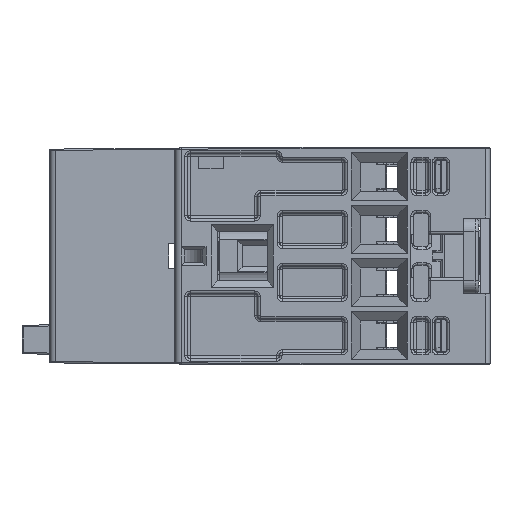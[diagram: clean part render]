
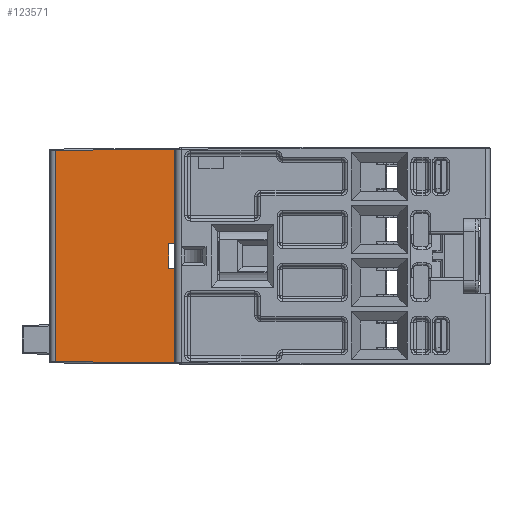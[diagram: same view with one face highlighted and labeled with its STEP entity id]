
A CAD part, left-side view. The second image highlights one B-rep face of the part: STEP entity #123571.
In plain terms, the highlighted planar face has unit normal (-1, 0.009, 0).
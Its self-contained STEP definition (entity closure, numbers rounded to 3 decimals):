
#74515 = CARTESIAN_POINT ( 'NONE',  ( -22.283, 62.909, 16.969 ) ) ;
#74572 = CARTESIAN_POINT ( 'NONE',  ( -22.45, 43.8, -2. ) ) ;
#74582 = CARTESIAN_POINT ( 'NONE',  ( -22.441, 44.8, 2. ) ) ;
#74583 = DIRECTION ( 'NONE',  ( 0.009, 1., 0. ) ) ;
#74584 = VECTOR ( 'NONE', #74583, 1000. ) ;
#74585 = CARTESIAN_POINT ( 'NONE',  ( -22.45, 43.8, 2. ) ) ;
#74586 = LINE ( 'NONE', #74585, #74584 ) ;
#74587 = CARTESIAN_POINT ( 'NONE',  ( -22.45, 43.8, 2. ) ) ;
#74659 = CARTESIAN_POINT ( 'NONE',  ( -22.283, 62.909, -16.969 ) ) ;
#74660 = DIRECTION ( 'NONE',  ( 0., 0., -1. ) ) ;
#74661 = VECTOR ( 'NONE', #74660, 1000. ) ;
#74662 = CARTESIAN_POINT ( 'NONE',  ( -22.283, 62.909, 16.969 ) ) ;
#74663 = LINE ( 'NONE', #74662, #74661 ) ;
#74682 = DIRECTION ( 'NONE',  ( 0., 0., 1. ) ) ;
#74683 = VECTOR ( 'NONE', #74682, 1000. ) ;
#74684 = CARTESIAN_POINT ( 'NONE',  ( -22.45, 43.8, -17.136 ) ) ;
#74685 = LINE ( 'NONE', #74684, #74683 ) ;
#74687 = CARTESIAN_POINT ( 'NONE',  ( -22.45, 43.8, 17.136 ) ) ;
#74688 = DIRECTION ( 'NONE',  ( -0.009, -1., 0.009 ) ) ;
#74689 = VECTOR ( 'NONE', #74688, 1000. ) ;
#74690 = CARTESIAN_POINT ( 'NONE',  ( -22.283, 62.909, 16.969 ) ) ;
#74691 = LINE ( 'NONE', #74690, #74689 ) ;
#74703 = FACE_OUTER_BOUND ( 'NONE', #123573, .T. ) ;
#74710 = DIRECTION ( 'NONE',  ( 0., 0., -1. ) ) ;
#74711 = VECTOR ( 'NONE', #74710, 1000. ) ;
#74712 = CARTESIAN_POINT ( 'NONE',  ( -22.441, 44.8, 2. ) ) ;
#74713 = LINE ( 'NONE', #74712, #74711 ) ;
#74731 = DIRECTION ( 'NONE',  ( 0., 0., 1. ) ) ;
#74732 = VECTOR ( 'NONE', #74731, 1000. ) ;
#74733 = CARTESIAN_POINT ( 'NONE',  ( -22.45, 43.8, 2. ) ) ;
#74734 = LINE ( 'NONE', #74733, #74732 ) ;
#74735 = DIRECTION ( 'NONE',  ( 0., 0., 1. ) ) ;
#74736 = DIRECTION ( 'NONE',  ( -1., 0.009, 0. ) ) ;
#74737 = CARTESIAN_POINT ( 'NONE',  ( -22.45, 43.8, -18.619 ) ) ;
#74738 = AXIS2_PLACEMENT_3D ( 'NONE', #74737, #74736, #74735 ) ;
#74739 = PLANE ( 'NONE',  #74738 ) ;
#74774 = DIRECTION ( 'NONE',  ( 0.009, 1., 0. ) ) ;
#74775 = VECTOR ( 'NONE', #74774, 1000. ) ;
#74776 = CARTESIAN_POINT ( 'NONE',  ( -22.45, 43.8, -2. ) ) ;
#74777 = LINE ( 'NONE', #74776, #74775 ) ;
#74778 = CARTESIAN_POINT ( 'NONE',  ( -22.441, 44.8, -2. ) ) ;
#74884 = CARTESIAN_POINT ( 'NONE',  ( -22.45, 43.8, -17.136 ) ) ;
#74885 = DIRECTION ( 'NONE',  ( -0.009, -1., -0.009 ) ) ;
#74886 = VECTOR ( 'NONE', #74885, 1000. ) ;
#74887 = CARTESIAN_POINT ( 'NONE',  ( -22.283, 62.909, -16.969 ) ) ;
#74888 = LINE ( 'NONE', #74887, #74886 ) ;
#123401 = VERTEX_POINT ( 'NONE', #74515 ) ;
#123444 = VERTEX_POINT ( 'NONE', #74572 ) ;
#123477 = VERTEX_POINT ( 'NONE', #74587 ) ;
#123482 = EDGE_CURVE ( 'NONE', #123477, #123484, #74586, .T. ) ;
#123484 = VERTEX_POINT ( 'NONE', #74582 ) ;
#123512 = EDGE_CURVE ( 'NONE', #123401, #123513, #74663, .T. ) ;
#123513 = VERTEX_POINT ( 'NONE', #74659 ) ;
#123537 = EDGE_CURVE ( 'NONE', #123401, #123540, #74691, .T. ) ;
#123540 = VERTEX_POINT ( 'NONE', #74687 ) ;
#123542 = EDGE_CURVE ( 'NONE', #123728, #123444, #74685, .T. ) ;
#123544 = ORIENTED_EDGE ( 'NONE', *, *, #123603, .T. ) ;
#123546 = ORIENTED_EDGE ( 'NONE', *, *, #123565, .F. ) ;
#123565 = EDGE_CURVE ( 'NONE', #123484, #123599, #74713, .T. ) ;
#123571 = ADVANCED_FACE ( 'NONE', ( #74703 ), #74739, .T. ) ;
#123573 = EDGE_LOOP ( 'NONE', ( #123576, #123579, #123584, #123587, #123726, #123730, #123544, #123546 ) ) ;
#123576 = ORIENTED_EDGE ( 'NONE', *, *, #123482, .F. ) ;
#123579 = ORIENTED_EDGE ( 'NONE', *, *, #123581, .T. ) ;
#123581 = EDGE_CURVE ( 'NONE', #123477, #123540, #74734, .T. ) ;
#123584 = ORIENTED_EDGE ( 'NONE', *, *, #123537, .F. ) ;
#123587 = ORIENTED_EDGE ( 'NONE', *, *, #123512, .T. ) ;
#123599 = VERTEX_POINT ( 'NONE', #74778 ) ;
#123603 = EDGE_CURVE ( 'NONE', #123444, #123599, #74777, .T. ) ;
#123726 = ORIENTED_EDGE ( 'NONE', *, *, #123727, .T. ) ;
#123727 = EDGE_CURVE ( 'NONE', #123513, #123728, #74888, .T. ) ;
#123728 = VERTEX_POINT ( 'NONE', #74884 ) ;
#123730 = ORIENTED_EDGE ( 'NONE', *, *, #123542, .T. ) ;
